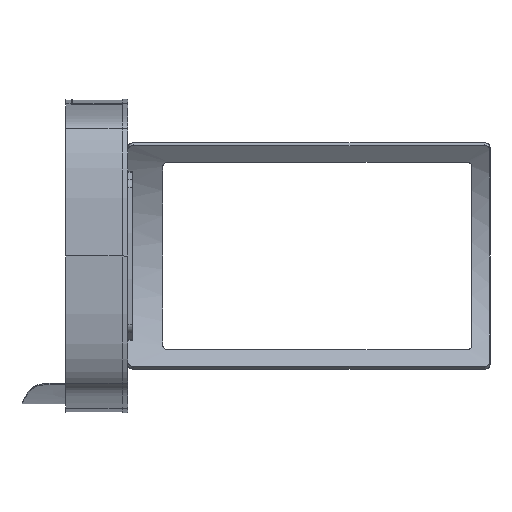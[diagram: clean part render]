
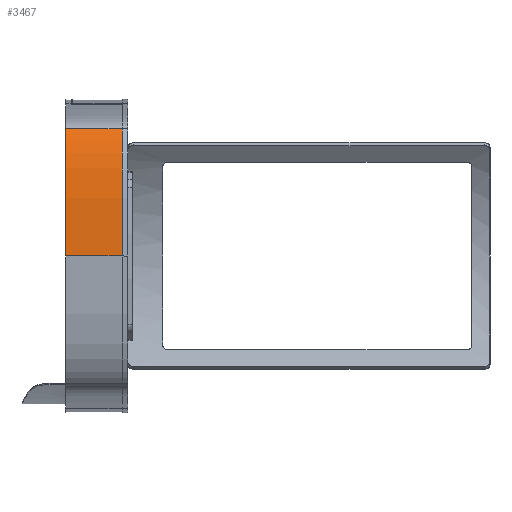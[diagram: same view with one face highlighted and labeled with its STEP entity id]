
A CAD part, left-side view. The second image highlights one B-rep face of the part: STEP entity #3467.
In plain terms, the highlighted free-form (B-spline) face has degree [3, 1] with [6, 2] control points.
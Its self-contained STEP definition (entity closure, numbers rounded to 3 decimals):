
#227 = EDGE_CURVE ( 'NONE', #2197, #361, #326, .T. ) ;
#326 = B_SPLINE_CURVE_WITH_KNOTS ( 'NONE', 3,
 ( #4621, #7451, #8233, #11071, #2554, #7268 ),
 .UNSPECIFIED., .F., .F.,
 ( 4, 1, 1, 4 ),
 ( 0., 0.534, 0.887, 1. ),
 .UNSPECIFIED. ) ;
#361 = VERTEX_POINT ( 'NONE', #5560 ) ;
#500 = CARTESIAN_POINT ( 'NONE',  ( -651., -37.858, 0. ) ) ;
#1111 = CARTESIAN_POINT ( 'NONE',  ( -610.808, -218.328, 0. ) ) ;
#1629 = CARTESIAN_POINT ( 'NONE',  ( -651., 0., 100. ) ) ;
#1916 = ORIENTED_EDGE ( 'NONE', *, *, #227, .F. ) ;
#2197 = VERTEX_POINT ( 'NONE', #1629 ) ;
#2213 = LINE ( 'NONE', #11629, #10003 ) ;
#2256 = CARTESIAN_POINT ( 'NONE',  ( -604.552, -224.837, 100. ) ) ;
#2554 = CARTESIAN_POINT ( 'NONE',  ( -610.808, -218.328, 100. ) ) ;
#2793 = LINE ( 'NONE', #11243, #4693 ) ;
#3156 = FACE_OUTER_BOUND ( 'NONE', #6901, .T. ) ;
#3263 = EDGE_CURVE ( 'NONE', #2197, #4867, #2793, .T. ) ;
#3467 = ADVANCED_FACE ( 'NONE', ( #3156 ), #10577, .F. ) ;
#4164 = ORIENTED_EDGE ( 'NONE', *, *, #3263, .T. ) ;
#4621 = CARTESIAN_POINT ( 'NONE',  ( -651., 0., 100. ) ) ;
#4693 = VECTOR ( 'NONE', #9360, 1000. ) ;
#4803 = CARTESIAN_POINT ( 'NONE',  ( -631.489, -188.518, 100. ) ) ;
#4867 = VERTEX_POINT ( 'NONE', #7358 ) ;
#5182 = CARTESIAN_POINT ( 'NONE',  ( -651., 0., 100. ) ) ;
#5197 = DIRECTION ( 'NONE',  ( 0., 0., -1. ) ) ;
#5560 = CARTESIAN_POINT ( 'NONE',  ( -604.552, -224.837, 100. ) ) ;
#6006 = EDGE_CURVE ( 'NONE', #361, #9413, #2213, .T. ) ;
#6036 = CARTESIAN_POINT ( 'NONE',  ( -610.808, -218.328, 100. ) ) ;
#6160 = CARTESIAN_POINT ( 'NONE',  ( -651., -37.858, 100. ) ) ;
#6423 = CARTESIAN_POINT ( 'NONE',  ( -610.808, -218.328, 0. ) ) ;
#6901 = EDGE_LOOP ( 'NONE', ( #9810, #8120, #1916, #4164 ) ) ;
#6964 = CARTESIAN_POINT ( 'NONE',  ( -604.552, -224.837, 0. ) ) ;
#7268 = CARTESIAN_POINT ( 'NONE',  ( -604.552, -224.837, 100. ) ) ;
#7358 = CARTESIAN_POINT ( 'NONE',  ( -651., 0., 0. ) ) ;
#7451 = CARTESIAN_POINT ( 'NONE',  ( -651., -37.858, 100. ) ) ;
#7621 = CARTESIAN_POINT ( 'NONE',  ( -647.704, -111.071, 100. ) ) ;
#8082 = CARTESIAN_POINT ( 'NONE',  ( -651., 0., 0. ) ) ;
#8120 = ORIENTED_EDGE ( 'NONE', *, *, #6006, .F. ) ;
#8233 = CARTESIAN_POINT ( 'NONE',  ( -647.704, -111.071, 100. ) ) ;
#8309 = CARTESIAN_POINT ( 'NONE',  ( -604.552, -224.837, 0. ) ) ;
#8525 = CARTESIAN_POINT ( 'NONE',  ( -631.489, -188.518, 0. ) ) ;
#9145 = CARTESIAN_POINT ( 'NONE',  ( -631.489, -188.518, 0. ) ) ;
#9360 = DIRECTION ( 'NONE',  ( 0., 0., -1. ) ) ;
#9413 = VERTEX_POINT ( 'NONE', #11632 ) ;
#9810 = ORIENTED_EDGE ( 'NONE', *, *, #11794, .T. ) ;
#10003 = VECTOR ( 'NONE', #5197, 1000. ) ;
#10069 = CARTESIAN_POINT ( 'NONE',  ( -647.704, -111.071, 0. ) ) ;
#10307 = B_SPLINE_CURVE_WITH_KNOTS ( 'NONE', 3,
 ( #8082, #11523, #10069, #9145, #6423, #8309 ),
 .UNSPECIFIED., .F., .F.,
 ( 4, 1, 1, 4 ),
 ( 0., 0.534, 0.887, 1. ),
 .UNSPECIFIED. ) ;
#10577 = B_SPLINE_SURFACE_WITH_KNOTS ( 'NONE', 3, 1, ( 
 ( #2256, #6964 ),
 ( #6036, #1111 ),
 ( #4803, #8525 ),
 ( #7621, #11299 ),
 ( #6160, #500 ),
 ( #5182, #11668 ) ),
 .UNSPECIFIED., .F., .F., .F.,
 ( 4, 1, 1, 4 ),
 ( 2, 2 ),
 ( 0., 0.113, 0.466, 1. ),
 ( 0., 1. ),
 .UNSPECIFIED. ) ;
#11071 = CARTESIAN_POINT ( 'NONE',  ( -631.489, -188.518, 100. ) ) ;
#11243 = CARTESIAN_POINT ( 'NONE',  ( -651., 0., 90. ) ) ;
#11299 = CARTESIAN_POINT ( 'NONE',  ( -647.704, -111.071, 0. ) ) ;
#11523 = CARTESIAN_POINT ( 'NONE',  ( -651., -37.858, 0. ) ) ;
#11629 = CARTESIAN_POINT ( 'NONE',  ( -604.552, -224.837, 90. ) ) ;
#11632 = CARTESIAN_POINT ( 'NONE',  ( -604.552, -224.837, 0. ) ) ;
#11668 = CARTESIAN_POINT ( 'NONE',  ( -651., 0., 0. ) ) ;
#11794 = EDGE_CURVE ( 'NONE', #4867, #9413, #10307, .T. ) ;
